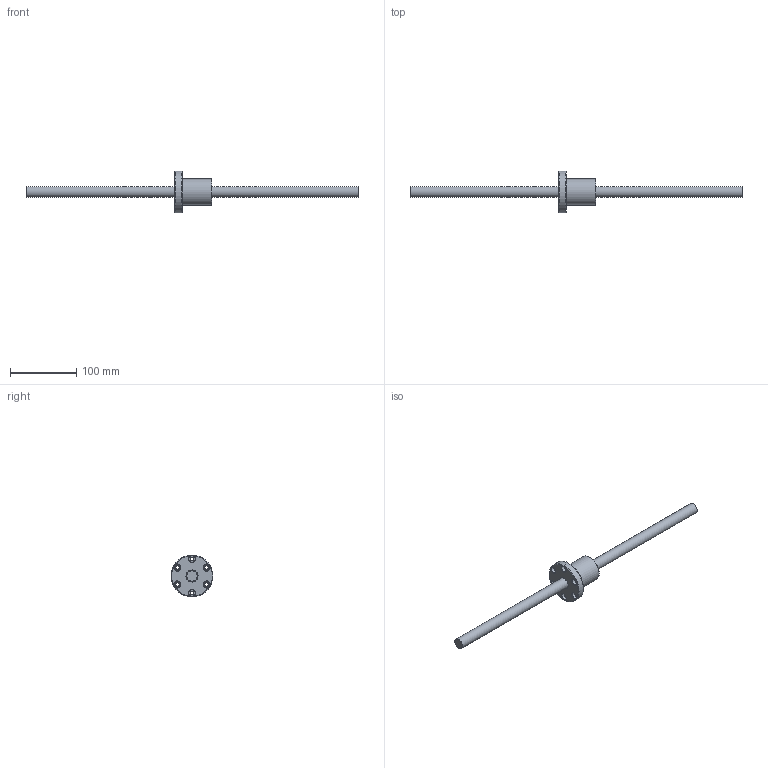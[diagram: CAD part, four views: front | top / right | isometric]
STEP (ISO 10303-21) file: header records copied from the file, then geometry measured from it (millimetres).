
FILE_DESCRIPTION (( 'STEP AP203' ), '1' );
FILE_NAME ('SFV01610N-2.7.step', '2024-05-20T03:37:29', ( '' ), ( '' ), 'SwSTEP 2.0', 'SolidWorks 2022', '' );
FILE_SCHEMA (( 'CONFIG_CONTROL_DESIGN' ));
Length unit declared in the file: millimetre
Products named in the file (1): SFV01610N-2.7
Bounding box: 500 x 63 x 63 mm (x, y, z)
Volume: 173046.6 mm3; surface area: 43569.3 mm2
Topology: 2 solids, 2 shells, 57 faces, 145 edges, 93 vertices
Faces by surface type: cylinder 24, cone 13, plane 12, bspline 5, torus 3
Full cylindrical faces by diameter (mm): 4 x1, 5 x6, 5.5 x6, 9.5 x6, 16 x1, 18.2 x1, 40 x1, 63 x1
Entity records: 3070 total; most frequent: CARTESIAN_POINT 2019, DIRECTION 206, ORIENTED_EDGE 148, EDGE_LOOP 102, AXIS2_PLACEMENT_3D 101, EDGE_CURVE 74, FACE_OUTER_BOUND 72, VERTEX_POINT 64
